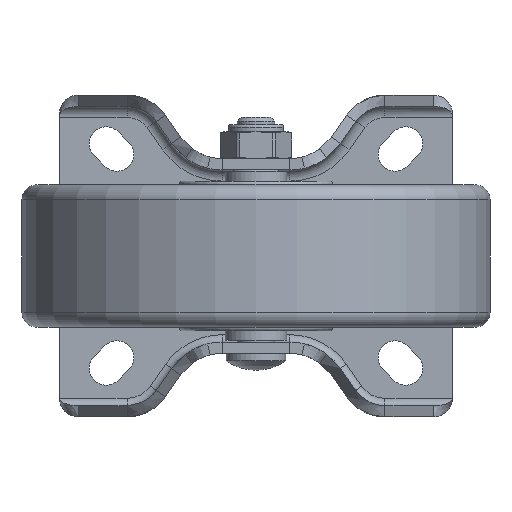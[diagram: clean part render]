
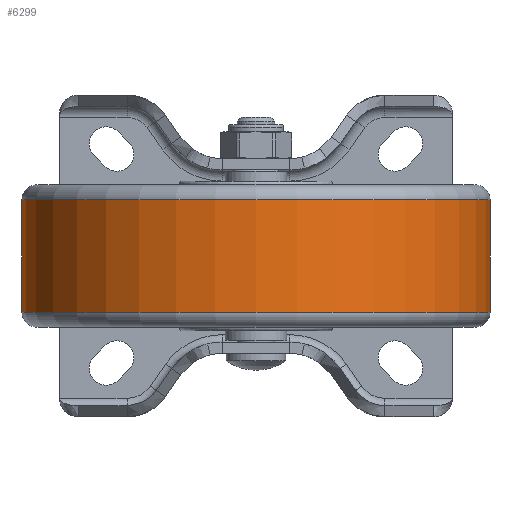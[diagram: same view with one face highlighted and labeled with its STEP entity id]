
A CAD part, front view. The second image highlights one B-rep face of the part: STEP entity #6299.
In plain terms, the highlighted cylindrical face has radius 62.5 mm (diameter 125 mm), a partial arc.
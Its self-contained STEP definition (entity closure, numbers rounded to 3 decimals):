
#5597=DIRECTION('',(-1.,0.,0.));
#5598=VECTOR('',#5597,30.);
#5599=CARTESIAN_POINT('',(15.,62.5,0.));
#5600=LINE('',#5599,#5598);
#5601=DIRECTION('',(-1.,0.,0.));
#5602=VECTOR('',#5601,30.);
#5603=CARTESIAN_POINT('',(15.,-62.5,0.));
#5604=LINE('',#5603,#5602);
#5605=CARTESIAN_POINT('',(15.,0.,0.));
#5606=DIRECTION('',(-1.,0.,0.));
#5607=DIRECTION('',(0.,1.,0.));
#5608=AXIS2_PLACEMENT_3D('',#5605,#5606,#5607);
#5630=CARTESIAN_POINT('',(-15.,0.,0.));
#5631=DIRECTION('',(-1.,0.,0.));
#5632=DIRECTION('',(0.,1.,0.));
#5633=AXIS2_PLACEMENT_3D('',#5630,#5631,#5632);
#6024=CARTESIAN_POINT('',(15.,62.5,0.));
#6026=VERTEX_POINT('',#6024);
#6027=CARTESIAN_POINT('',(-15.,62.5,0.));
#6028=VERTEX_POINT('',#6027);
#6032=CARTESIAN_POINT('',(15.,-62.5,0.));
#6034=VERTEX_POINT('',#6032);
#6035=CARTESIAN_POINT('',(-15.,-62.5,0.));
#6036=VERTEX_POINT('',#6035);
#6285=CARTESIAN_POINT('',(-20.9,0.,0.));
#6286=DIRECTION('',(1.,0.,0.));
#6287=DIRECTION('',(0.,-1.,0.));
#6288=AXIS2_PLACEMENT_3D('',#6285,#6286,#6287);
#6289=CYLINDRICAL_SURFACE('',#6288,62.5);
#6291=ORIENTED_EDGE('',*,*,#6290,.T.);
#6293=ORIENTED_EDGE('',*,*,#6292,.T.);
#6295=ORIENTED_EDGE('',*,*,#6294,.F.);
#6296=ORIENTED_EDGE('',*,*,#6278,.F.);
#6297=EDGE_LOOP('',(#6291,#6293,#6295,#6296));
#6298=FACE_OUTER_BOUND('',#6297,.F.);
#5609=CIRCLE('',#5608,62.5);
#5634=CIRCLE('',#5633,62.5);
#6278=EDGE_CURVE('',#6026,#6034,#5609,.T.);
#6290=EDGE_CURVE('',#6026,#6028,#5600,.T.);
#6292=EDGE_CURVE('',#6028,#6036,#5634,.T.);
#6294=EDGE_CURVE('',#6034,#6036,#5604,.T.);
#6299=ADVANCED_FACE('',(#6298),#6289,.T.);
